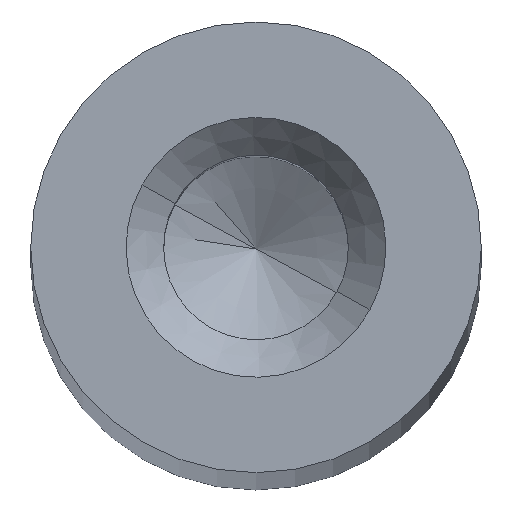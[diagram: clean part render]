
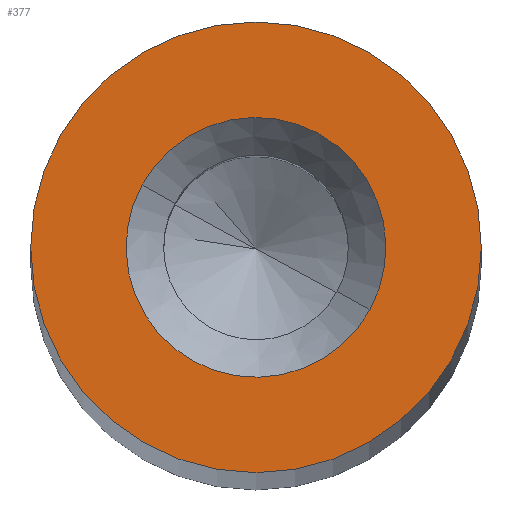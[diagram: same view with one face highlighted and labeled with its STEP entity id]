
A CAD part, top view. The second image highlights one B-rep face of the part: STEP entity #377.
In plain terms, the highlighted planar face has unit normal (0, 0, 1).
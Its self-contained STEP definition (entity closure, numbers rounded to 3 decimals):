
#128=CARTESIAN_POINT('Vertex',(3.,0.,152.)) ;
#131=CARTESIAN_POINT('Axis2P3D Location',(0.,0.,152.)) ;
#135=CARTESIAN_POINT('Vertex',(-3.,0.,152.)) ;
#157=CARTESIAN_POINT('Axis2P3D Location',(0.,0.,152.)) ;
#350=CARTESIAN_POINT('Axis2P3D Location',(0.,0.,152.)) ;
#359=CARTESIAN_POINT('Axis2P3D Location',(0.,0.,152.)) ;
#363=CARTESIAN_POINT('Vertex',(1.518,-0.829,152.)) ;
#365=CARTESIAN_POINT('Vertex',(-1.518,0.829,152.)) ;
#368=CARTESIAN_POINT('Axis2P3D Location',(0.,0.,152.)) ;
#132=DIRECTION('Axis2P3D Direction',(0.,0.,1.)) ;
#158=DIRECTION('Axis2P3D Direction',(0.,0.,1.)) ;
#351=DIRECTION('Axis2P3D Direction',(0.,0.,1.)) ;
#352=DIRECTION('Axis2P3D XDirection',(1.,0.,0.)) ;
#360=DIRECTION('Axis2P3D Direction',(0.,0.,1.)) ;
#369=DIRECTION('Axis2P3D Direction',(0.,0.,1.)) ;
#133=AXIS2_PLACEMENT_3D('Circle Axis2P3D',#131,#132,$) ;
#159=AXIS2_PLACEMENT_3D('Circle Axis2P3D',#157,#158,$) ;
#353=AXIS2_PLACEMENT_3D('Plane Axis2P3D',#350,#351,#352) ;
#361=AXIS2_PLACEMENT_3D('Circle Axis2P3D',#359,#360,$) ;
#370=AXIS2_PLACEMENT_3D('Circle Axis2P3D',#368,#369,$) ;
#134=CIRCLE('generated circle',#133,3.) ;
#160=CIRCLE('generated circle',#159,3.) ;
#362=CIRCLE('generated circle',#361,1.73) ;
#371=CIRCLE('generated circle',#370,1.73) ;
#354=PLANE('',#353) ;
#376=FACE_BOUND('',#373,.T.) ;
#137=EDGE_CURVE('',#136,#129,#134,.T.) ;
#161=EDGE_CURVE('',#129,#136,#160,.T.) ;
#367=EDGE_CURVE('',#364,#366,#362,.T.) ;
#372=EDGE_CURVE('',#366,#364,#371,.T.) ;
#355=EDGE_LOOP('',(#356,#357)) ;
#373=EDGE_LOOP('',(#374,#375)) ;
#356=ORIENTED_EDGE('',*,*,#161,.T.) ;
#357=ORIENTED_EDGE('',*,*,#137,.T.) ;
#374=ORIENTED_EDGE('',*,*,#367,.F.) ;
#375=ORIENTED_EDGE('',*,*,#372,.F.) ;
#129=VERTEX_POINT('',#128) ;
#136=VERTEX_POINT('',#135) ;
#364=VERTEX_POINT('',#363) ;
#366=VERTEX_POINT('',#365) ;
#377=ADVANCED_FACE('Corps principal',(#358,#376),#354,.T.) ;
#358=FACE_OUTER_BOUND('',#355,.T.) ;
